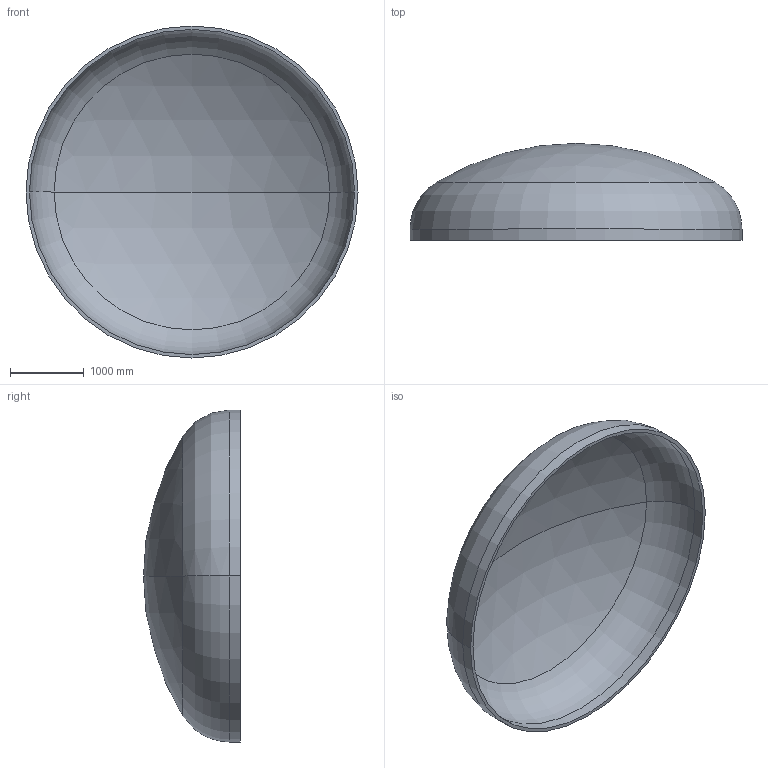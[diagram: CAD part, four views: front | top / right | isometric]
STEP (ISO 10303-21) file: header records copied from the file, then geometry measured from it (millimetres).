
FILE_DESCRIPTION (( 'STEP AP203' ), '1' );
FILE_NAME ('DIN 28013 Korbbogenform_-_Boden DIN 28013 - 4500 x 150 - I - s=47.step', '2016-07-01T23:29:37', ( '' ), ( '' ), 'SwSTEP 2.0', 'SolidWorks 2013', '' );
FILE_SCHEMA (( 'CONFIG_CONTROL_DESIGN' ));
Length unit declared in the file: millimetre
Products named in the file (1): DIN 28013 Korbbogenform_-_Boden DIN 28013 - 4500 x 150 - I - s=47
Bounding box: 4500 x 1314.07 x 4500 mm (x, y, z)
Volume: 1120283378.1 mm3; surface area: 48333749.4 mm2
Topology: 1 solids, 1 shells, 13 faces, 24 edges, 14 vertices
Faces by surface type: torus 4, cylinder 4, sphere 4, plane 1
Entity records: 407 total; most frequent: DIRECTION 72, CARTESIAN_POINT 52, ORIENTED_EDGE 48, AXIS2_PLACEMENT_3D 34, EDGE_CURVE 24, CIRCLE 20, EDGE_LOOP 14, VERTEX_POINT 14
